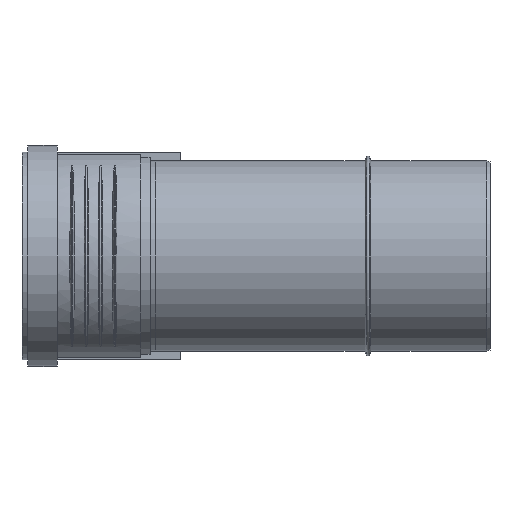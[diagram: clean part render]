
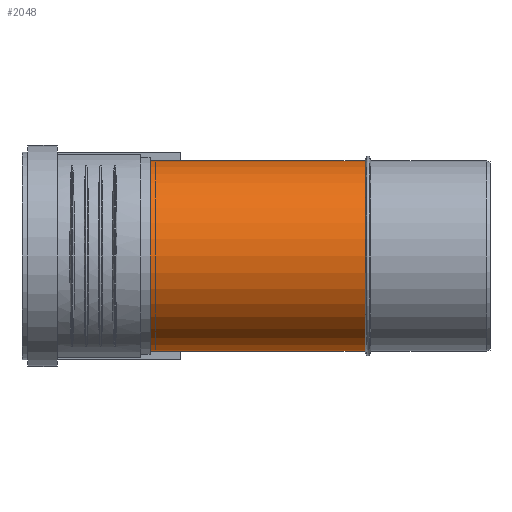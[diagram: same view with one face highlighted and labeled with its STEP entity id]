
A CAD part, left-side view. The second image highlights one B-rep face of the part: STEP entity #2048.
In plain terms, the highlighted cylindrical face has radius 55.1 mm (diameter 110.2 mm), a full revolution.
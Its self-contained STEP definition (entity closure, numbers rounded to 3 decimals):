
#265=CYLINDRICAL_SURFACE($,#2195,55.1);
#418=B_SPLINE_CURVE_WITH_KNOTS($,3,(#3049,#3050,#3051,#3052,#3053,#3054,
#3055,#3056,#3057,#3058),.UNSPECIFIED.,.F.,.F.,(4,2,2,2,4),(7.062,
7.077,7.69,8.303,8.318),
 .UNSPECIFIED.);
#419=B_SPLINE_CURVE_WITH_KNOTS($,3,(#3065,#3066,#3067,#3068,#3069,#3070,
#3071,#3072,#3073,#3074,#3075,#3076,#3077,#3078,#3079,#3080,#3081,#3082,
#3083,#3084,#3085,#3086,#3087,#3088,#3089,#3090,#3091,#3092,#3093,#3094,
#3095,#3096,#3097,#3098,#3099,#3100,#3101,#3102,#3103,#3104,#3105,#3106,
#3107,#3108,#3109,#3110,#3111,#3112,#3113,#3114,#3115,#3116,#3117,#3118,
#3119,#3120,#3121,#3122,#3123,#3124,#3125,#3126,#3127,#3128,#3129,#3130,
#3131,#3132,#3133,#3134,#3135),.UNSPECIFIED.,.F.,.F.,(4,2,2,2,2,2,2,2,2,
2,2,2,2,2,2,2,2,2,2,2,2,2,2,2,2,2,3,2,2,2,2,2,2,2,4),(-24.033,
-23.976,-23.316,-22.204,-21.092,
-19.351,-17.61,-16.005,-14.4,
-13.474,-13.011,-12.548,-11.622,
-10.695,-9.822,-8.948,-8.074,
-7.2,-6.326,-5.452,-4.578,
-3.705,-2.778,-1.852,-1.389,
-0.926,0.,1.605,3.21,4.951,
6.692,7.804,8.916,9.576,9.633),
 .UNSPECIFIED.);
#534=FACE_BOUND($,#732,.T.);
#535=FACE_BOUND($,#733,.T.);
#602=FACE_OUTER_BOUND($,#731,.T.);
#731=EDGE_LOOP($,(#1504));
#732=EDGE_LOOP($,(#1505));
#733=EDGE_LOOP($,(#1506,#1507));
#900=CIRCLE($,#2181,55.1);
#906=CIRCLE($,#2193,55.1);
#1001=VERTEX_POINT($,#3038);
#1004=VERTEX_POINT($,#3047);
#1005=VERTEX_POINT($,#3048);
#1007=VERTEX_POINT($,#3137);
#1208=EDGE_CURVE($,#1001,#1001,#900,.T.);
#1211=EDGE_CURVE($,#1004,#1005,#418,.T.);
#1215=EDGE_CURVE($,#1005,#1004,#419,.T.);
#1216=EDGE_CURVE($,#1007,#1007,#906,.T.);
#1504=ORIENTED_EDGE($,*,*,#1208,.T.);
#1505=ORIENTED_EDGE($,*,*,#1216,.T.);
#1506=ORIENTED_EDGE($,*,*,#1211,.T.);
#1507=ORIENTED_EDGE($,*,*,#1215,.T.);
#2048=ADVANCED_FACE($,(#602,#534,#535),#265,.T.);
#2181=AXIS2_PLACEMENT_3D($,#3039,#2430,#2431);
#2193=AXIS2_PLACEMENT_3D($,#3138,#2454,#2455);
#2195=AXIS2_PLACEMENT_3D($,#3140,#2458,#2459);
#2430=DIRECTION('center_axis',(0.,1.,0.));
#2431=DIRECTION('ref_axis',(1.,0.,0.));
#2454=DIRECTION('center_axis',(0.,-1.,0.));
#2455=DIRECTION('ref_axis',(1.,0.,0.));
#2458=DIRECTION('center_axis',(0.,1.,0.));
#2459=DIRECTION('ref_axis',(1.,0.,0.));
#3038=CARTESIAN_POINT('',(-55.1,72.4,0.));
#3039=CARTESIAN_POINT('Origin',(0.,72.4,0.));
#3047=CARTESIAN_POINT('',(54.75,199.045,6.2));
#3048=CARTESIAN_POINT('',(54.75,199.045,-6.2));
#3049=CARTESIAN_POINT('Ctrl Pts',(54.75,199.045,6.2));
#3050=CARTESIAN_POINT('Ctrl Pts',(54.755,199.06,6.152));
#3051=CARTESIAN_POINT('Ctrl Pts',(54.761,199.075,6.105));
#3052=CARTESIAN_POINT('Ctrl Pts',(54.984,199.686,4.082));
#3053=CARTESIAN_POINT('Ctrl Pts',(55.1,200.001,2.043));
#3054=CARTESIAN_POINT('Ctrl Pts',(55.1,200.001,-2.043));
#3055=CARTESIAN_POINT('Ctrl Pts',(54.984,199.686,-4.082));
#3056=CARTESIAN_POINT('Ctrl Pts',(54.761,199.075,-6.105));
#3057=CARTESIAN_POINT('Ctrl Pts',(54.755,199.06,-6.152));
#3058=CARTESIAN_POINT('Ctrl Pts',(54.75,199.045,-6.2));
#3065=CARTESIAN_POINT('Ctrl Pts',(54.75,199.045,-6.2));
#3066=CARTESIAN_POINT('Ctrl Pts',(54.728,198.985,-6.394));
#3067=CARTESIAN_POINT('Ctrl Pts',(54.705,198.923,-6.587));
#3068=CARTESIAN_POINT('Ctrl Pts',(54.405,198.103,-9.006));
#3069=CARTESIAN_POINT('Ctrl Pts',(54.,196.993,-11.109));
#3070=CARTESIAN_POINT('Ctrl Pts',(52.837,193.791,-15.936));
#3071=CARTESIAN_POINT('Ctrl Pts',(51.87,191.115,-18.786));
#3072=CARTESIAN_POINT('Ctrl Pts',(49.761,185.192,-23.818));
#3073=CARTESIAN_POINT('Ctrl Pts',(48.621,181.95,-26.007));
#3074=CARTESIAN_POINT('Ctrl Pts',(45.91,174.102,-30.644));
#3075=CARTESIAN_POINT('Ctrl Pts',(44.051,168.592,-33.219));
#3076=CARTESIAN_POINT('Ctrl Pts',(40.422,157.212,-37.55));
#3077=CARTESIAN_POINT('Ctrl Pts',(38.658,151.344,-39.313));
#3078=CARTESIAN_POINT('Ctrl Pts',(35.825,140.873,-41.905));
#3079=CARTESIAN_POINT('Ctrl Pts',(34.445,135.269,-43.027));
#3080=CARTESIAN_POINT('Ctrl Pts',(32.352,123.896,-44.622));
#3081=CARTESIAN_POINT('Ctrl Pts',(31.654,118.124,-45.1));
#3082=CARTESIAN_POINT('Ctrl Pts',(31.654,109.687,-45.1));
#3083=CARTESIAN_POINT('Ctrl Pts',(31.888,106.48,-44.941));
#3084=CARTESIAN_POINT('Ctrl Pts',(32.76,101.811,-44.305));
#3085=CARTESIAN_POINT('Ctrl Pts',(33.137,100.277,-44.026));
#3086=CARTESIAN_POINT('Ctrl Pts',(34.06,97.304,-43.316));
#3087=CARTESIAN_POINT('Ctrl Pts',(34.607,95.866,-42.884));
#3088=CARTESIAN_POINT('Ctrl Pts',(36.458,91.748,-41.345));
#3089=CARTESIAN_POINT('Ctrl Pts',(37.987,89.253,-39.979));
#3090=CARTESIAN_POINT('Ctrl Pts',(41.216,84.883,-36.642));
#3091=CARTESIAN_POINT('Ctrl Pts',(42.906,83.003,-34.671));
#3092=CARTESIAN_POINT('Ctrl Pts',(45.946,79.922,-30.516));
#3093=CARTESIAN_POINT('Ctrl Pts',(47.404,78.596,-28.228));
#3094=CARTESIAN_POINT('Ctrl Pts',(50.043,76.325,-23.231));
#3095=CARTESIAN_POINT('Ctrl Pts',(51.224,75.38,-20.521));
#3096=CARTESIAN_POINT('Ctrl Pts',(53.145,73.884,-14.853));
#3097=CARTESIAN_POINT('Ctrl Pts',(53.887,73.332,-11.89));
#3098=CARTESIAN_POINT('Ctrl Pts',(54.864,72.609,-5.92));
#3099=CARTESIAN_POINT('Ctrl Pts',(55.1,72.439,-2.913));
#3100=CARTESIAN_POINT('Ctrl Pts',(55.1,72.439,2.913));
#3101=CARTESIAN_POINT('Ctrl Pts',(54.864,72.609,5.92));
#3102=CARTESIAN_POINT('Ctrl Pts',(53.887,73.332,11.89));
#3103=CARTESIAN_POINT('Ctrl Pts',(53.145,73.884,14.853));
#3104=CARTESIAN_POINT('Ctrl Pts',(51.224,75.38,20.521));
#3105=CARTESIAN_POINT('Ctrl Pts',(50.043,76.325,23.231));
#3106=CARTESIAN_POINT('Ctrl Pts',(47.404,78.596,28.228));
#3107=CARTESIAN_POINT('Ctrl Pts',(45.946,79.922,30.516));
#3108=CARTESIAN_POINT('Ctrl Pts',(42.906,83.003,34.671));
#3109=CARTESIAN_POINT('Ctrl Pts',(41.216,84.883,36.642));
#3110=CARTESIAN_POINT('Ctrl Pts',(37.987,89.253,39.979));
#3111=CARTESIAN_POINT('Ctrl Pts',(36.458,91.748,41.345));
#3112=CARTESIAN_POINT('Ctrl Pts',(34.607,95.866,42.884));
#3113=CARTESIAN_POINT('Ctrl Pts',(34.06,97.304,43.316));
#3114=CARTESIAN_POINT('Ctrl Pts',(33.137,100.277,44.026));
#3115=CARTESIAN_POINT('Ctrl Pts',(32.76,101.811,44.305));
#3116=CARTESIAN_POINT('Ctrl Pts',(31.888,106.48,44.941));
#3117=CARTESIAN_POINT('Ctrl Pts',(31.654,109.687,45.1));
#3118=CARTESIAN_POINT('Ctrl Pts',(31.654,112.774,45.1));
#3119=CARTESIAN_POINT('Ctrl Pts',(31.654,118.124,45.1));
#3120=CARTESIAN_POINT('Ctrl Pts',(32.352,123.896,44.622));
#3121=CARTESIAN_POINT('Ctrl Pts',(34.445,135.269,43.027));
#3122=CARTESIAN_POINT('Ctrl Pts',(35.825,140.873,41.905));
#3123=CARTESIAN_POINT('Ctrl Pts',(38.658,151.344,39.313));
#3124=CARTESIAN_POINT('Ctrl Pts',(40.422,157.212,37.55));
#3125=CARTESIAN_POINT('Ctrl Pts',(44.051,168.592,33.219));
#3126=CARTESIAN_POINT('Ctrl Pts',(45.91,174.102,30.644));
#3127=CARTESIAN_POINT('Ctrl Pts',(48.621,181.95,26.007));
#3128=CARTESIAN_POINT('Ctrl Pts',(49.761,185.192,23.818));
#3129=CARTESIAN_POINT('Ctrl Pts',(51.87,191.115,18.786));
#3130=CARTESIAN_POINT('Ctrl Pts',(52.837,193.791,15.936));
#3131=CARTESIAN_POINT('Ctrl Pts',(54.,196.993,11.109));
#3132=CARTESIAN_POINT('Ctrl Pts',(54.405,198.103,9.006));
#3133=CARTESIAN_POINT('Ctrl Pts',(54.705,198.923,6.587));
#3134=CARTESIAN_POINT('Ctrl Pts',(54.728,198.985,6.394));
#3135=CARTESIAN_POINT('Ctrl Pts',(54.75,199.045,6.2));
#3137=CARTESIAN_POINT('',(55.1,200.52,0.));
#3138=CARTESIAN_POINT('Origin',(0.,200.52,0.));
#3140=CARTESIAN_POINT('Origin',(0.,0.,0.));
